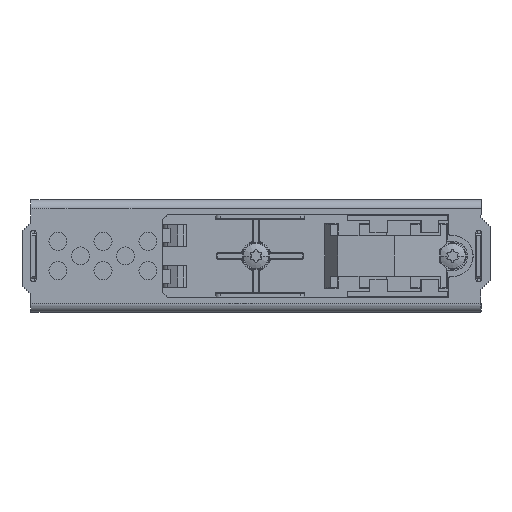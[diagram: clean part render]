
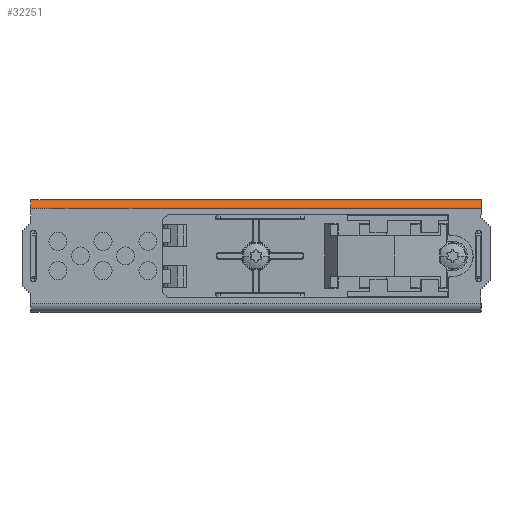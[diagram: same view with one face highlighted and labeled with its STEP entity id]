
A CAD part, left-side view. The second image highlights one B-rep face of the part: STEP entity #32251.
In plain terms, the highlighted free-form (B-spline) face has degree [5, 1] with [6, 2] control points.
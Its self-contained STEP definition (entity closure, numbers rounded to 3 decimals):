
#68=DIRECTION('',(0.,-1.,0.));
#69=VECTOR('',#68,100.);
#70=CARTESIAN_POINT('',(3.,100.,12.5));
#71=LINE('',#70,#69);
#283=CARTESIAN_POINT('',(3.,0.,10.5));
#284=DIRECTION('',(0.,-1.,0.));
#285=DIRECTION('',(0.,0.,1.));
#286=AXIS2_PLACEMENT_3D('',#283,#284,#285);
#563=DIRECTION('',(0.,-1.,0.));
#564=VECTOR('',#563,100.);
#565=CARTESIAN_POINT('',(1.,100.,10.5));
#566=LINE('',#565,#564);
#762=CARTESIAN_POINT('',(3.,100.,10.5));
#763=DIRECTION('',(0.,1.,0.));
#764=DIRECTION('',(-1.,0.,0.));
#765=AXIS2_PLACEMENT_3D('',#762,#763,#764);
#28152=CARTESIAN_POINT('',(3.,0.,12.5));
#28153=CARTESIAN_POINT('',(1.,0.,10.5));
#28154=VERTEX_POINT('',#28152);
#28155=VERTEX_POINT('',#28153);
#28156=CARTESIAN_POINT('',(1.,100.,10.5));
#28157=VERTEX_POINT('',#28156);
#28158=CARTESIAN_POINT('',(3.,100.,12.5));
#28159=VERTEX_POINT('',#28158);
#32229=CARTESIAN_POINT('',(3.063,102.,12.499));
#32230=CARTESIAN_POINT('',(3.063,-2.,12.499));
#32231=CARTESIAN_POINT('',(2.41,102.,12.52));
#32232=CARTESIAN_POINT('',(2.41,-2.,12.52));
#32233=CARTESIAN_POINT('',(1.748,102.,12.273));
#32234=CARTESIAN_POINT('',(1.748,-2.,12.273));
#32235=CARTESIAN_POINT('',(1.227,102.,11.752));
#32236=CARTESIAN_POINT('',(1.227,-2.,11.752));
#32237=CARTESIAN_POINT('',(0.98,102.,11.09));
#32238=CARTESIAN_POINT('',(0.98,-2.,11.09));
#32239=CARTESIAN_POINT('',(1.001,102.,10.437));
#32240=CARTESIAN_POINT('',(1.001,-2.,10.437));
#32241=B_SPLINE_SURFACE_WITH_KNOTS('',5,1,((#32229,#32230),(#32231,#32232),(
#32233,#32234),(#32235,#32236),(#32237,#32238),(#32239,#32240)),.UNSPECIFIED.,
.F.,.F.,.F.,(6,6),(2,2),(-0.031,1.602),(128.36,
232.36),.UNSPECIFIED.);
#32243=ORIENTED_EDGE('',*,*,#32242,.T.);
#32245=ORIENTED_EDGE('',*,*,#32244,.F.);
#32247=ORIENTED_EDGE('',*,*,#32246,.T.);
#32248=ORIENTED_EDGE('',*,*,#32109,.T.);
#32249=EDGE_LOOP('',(#32243,#32245,#32247,#32248));
#32250=FACE_OUTER_BOUND('',#32249,.F.);
#32251=ADVANCED_FACE('',(#32250),#32241,.T.);
#287=CIRCLE('',#286,2.);
#766=CIRCLE('',#765,2.);
#32109=EDGE_CURVE('',#28159,#28154,#71,.T.);
#32242=EDGE_CURVE('',#28154,#28155,#287,.T.);
#32244=EDGE_CURVE('',#28157,#28155,#566,.T.);
#32246=EDGE_CURVE('',#28157,#28159,#766,.T.);
